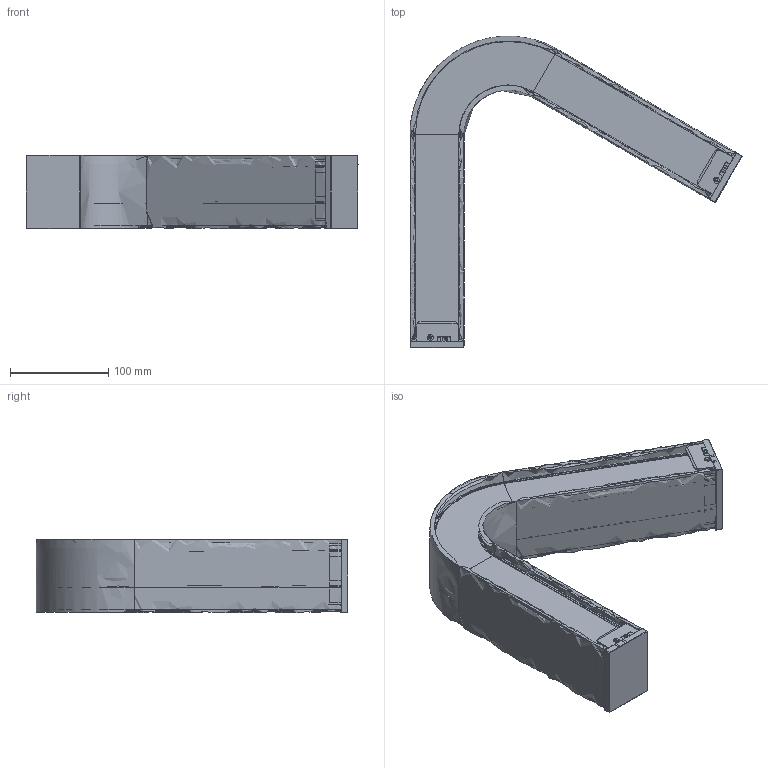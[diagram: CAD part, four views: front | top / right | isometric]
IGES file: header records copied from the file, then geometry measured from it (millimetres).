
Global section: file name: C:\Users\info\Desktop\CRIS\05. NEW PRODUCT\LUMINARIA KISS\3D para web\KISS A60 - IGS.igs; native system: Rhinoceros ( Feb 27 2019 ); preprocessor: Trout Lake IGES 012 Feb 27 2019; date: 260427.135124; units: millimetre
Bounding box: 337.44 x 316.74 x 75 mm (x, y, z)
Surface area: 458326 mm2 (no closed solid volume)
Topology: 0 solids, 0 shells, 1922 faces, 17364 edges, 17358 vertices
Faces by surface type: bspline 1922
